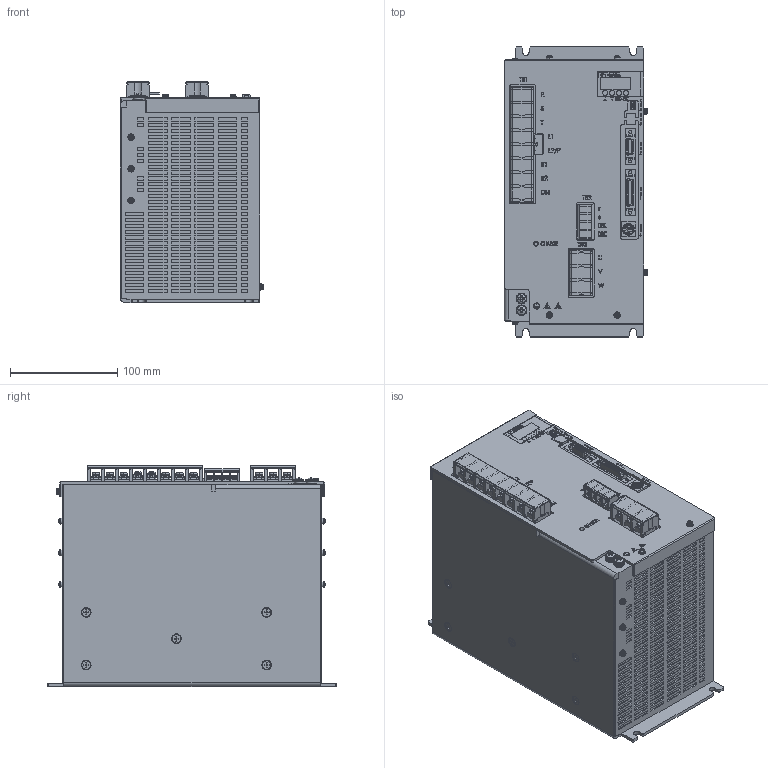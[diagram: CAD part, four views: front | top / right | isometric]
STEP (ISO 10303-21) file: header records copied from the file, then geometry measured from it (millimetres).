
FILE_DESCRIPTION (( 'STEP AP214' ), '1' );
FILE_NAME ('NCR-HA2_332#SE-77410A.STEP', '2020-02-10T05:53:12', ( '' ), ( '' ), 'SwSTEP 2.0', 'SolidWorks 2018', '' );
FILE_SCHEMA (( 'AUTOMOTIVE_DESIGN' ));
Length unit declared in the file: millimetre
Products named in the file (1): NCR-HA2_332#SE-77410A
Bounding box: 133.45 x 270 x 205.8 mm (x, y, z)
Volume: 5974342.5 mm3; surface area: 284747.9 mm2
Topology: 4 solids, 50 shells, 8117 faces, 21901 edges, 14315 vertices
Faces by surface type: plane 6422, cylinder 944, bspline 461, cone 202, torus 58, sphere 30
Entity records: 365467 total; most frequent: CARTESIAN_POINT 73840, ORIENTED_EDGE 43770, DIRECTION 38424, EDGE_CURVE 21885, LINE 17544, VECTOR 17544, VERTEX_POINT 14315, AXIS2_PLACEMENT_3D 10440
